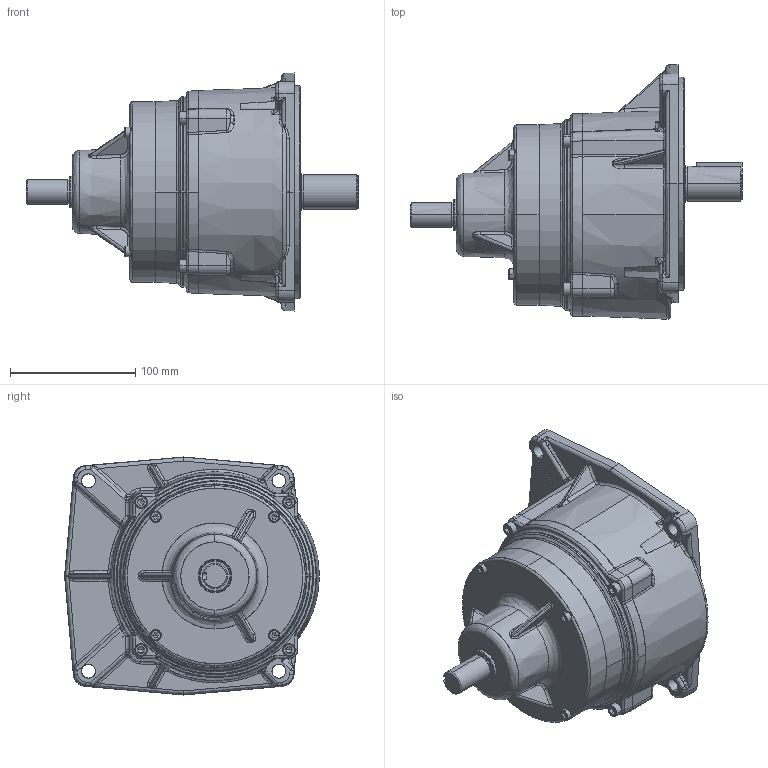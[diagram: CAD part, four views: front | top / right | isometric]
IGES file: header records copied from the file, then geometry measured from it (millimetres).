
Start section: SolidWorks IGES file using analytic representation for surfaces
Bounding box: 265 x 203.34 x 190 mm (x, y, z)
Surface area: 253829.8 mm2 (no closed solid volume)
Topology: 0 solids, 0 shells, 791 faces, 9801 edges, 9778 vertices
Faces by surface type: bspline 497, revolution 294
